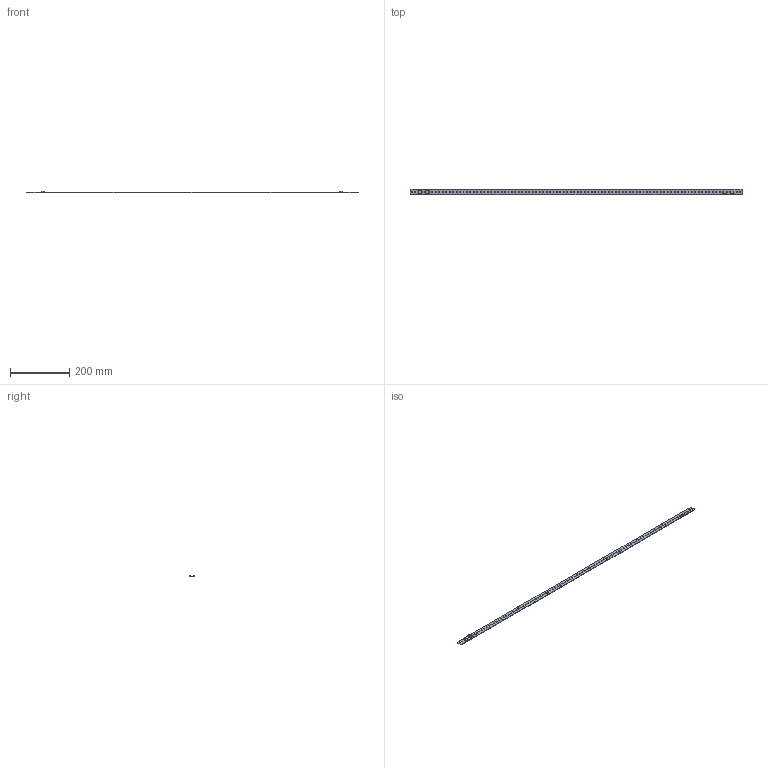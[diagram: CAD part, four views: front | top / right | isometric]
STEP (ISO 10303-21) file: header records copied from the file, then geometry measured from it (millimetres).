
FILE_DESCRIPTION((''),'2;1');
FILE_NAME('16212210_LLE-20X1120-HV-SNC3','2022-11-29T09:35:54',('Bernhard.Fink'),(''),'CREO PARAMETRIC BY PTC INC, 2021184','CREO PARAMETRIC BY PTC INC, 2021184','');
FILE_SCHEMA(('CONFIG_CONTROL_DESIGN'));
Products named in the file (1): 16212210_LLE-20X1120-HV-SNC3
Bounding box: 1119 x 19.8 x 5.1 mm (x, y, z)
Volume: 36289.7 mm3; surface area: 48752.8 mm2
Topology: 1 solids, 46 shells, 1369 faces, 4002 edges, 2653 vertices
Faces by surface type: plane 856, cylinder 231, bspline 174, cone 51, sphere 30, torus 27
Entity records: 84814 total; most frequent: CARTESIAN_POINT 51737, ORIENTED_EDGE 7062, DIRECTION 5599, EDGE_CURVE 4002, VERTEX_POINT 2653, VECTOR 2499, LINE 2499, AXIS2_PLACEMENT_3D 1550
